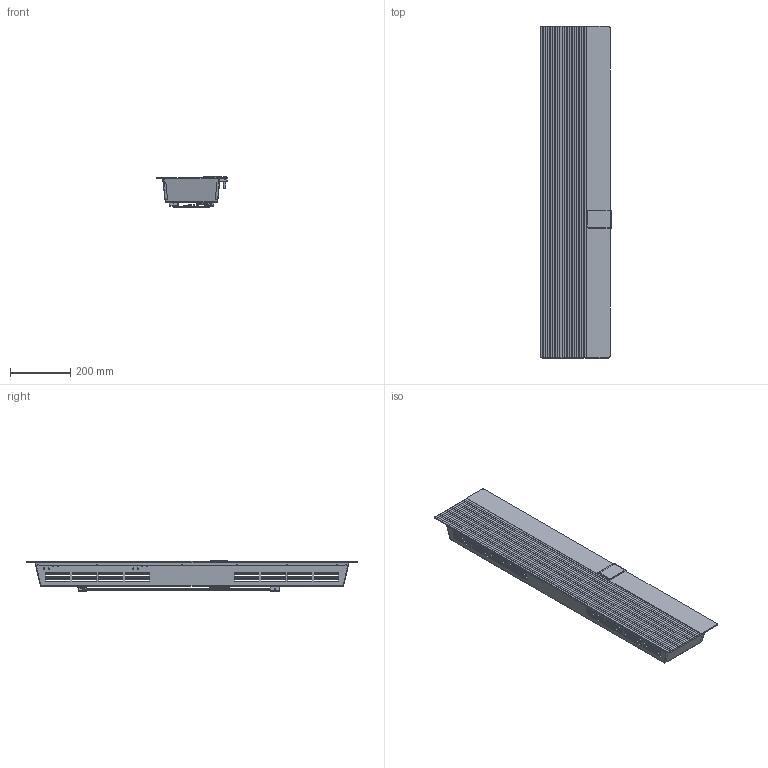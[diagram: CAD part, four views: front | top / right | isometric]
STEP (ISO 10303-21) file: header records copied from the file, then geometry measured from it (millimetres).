
FILE_DESCRIPTION(('FreeCAD Model'),'2;1');
FILE_NAME('Open CASCADE Shape Model','2026-06-16T14:32:04',(''),(''), 'Open CASCADE STEP processor 7.8','FreeCAD','Unknown');
FILE_SCHEMA(('AUTOMOTIVE_DESIGN { 1 0 10303 214 1 1 1 1 }'));
Length unit declared in the file: millimetre
Products named in the file (13): Mikado_5; MIK_GR-POSTERIORE-500_ASM; MIK_POSTERIORE-500; DEK_AGGANCIO-SUPPORTO; DEK_AGGANCIO-SUPPORTO001; ONS_GR-COMANDI_ASM; ONS_FONDO-SCATOLA-COMANDI; ONS_MASCHERINA-COMANDI; MIK_FRONTALE-500; MIK_GR-SUPPORTO-MIKADO-500_ASM; MIK_SUPPORTO-MURALE_25-MIKADO; KLI_TRAVERSA-SUPPORTO_MAX; MIK_SUPPORTO-MURALE-IN_25-MIK
Assembly tree (12 placements, depth 3):
  Mikado_5
    MIK_GR-POSTERIORE-500_ASM
      MIK_POSTERIORE-500
      DEK_AGGANCIO-SUPPORTO
      DEK_AGGANCIO-SUPPORTO001
    ONS_GR-COMANDI_ASM
      ONS_FONDO-SCATOLA-COMANDI
    ONS_MASCHERINA-COMANDI
    MIK_FRONTALE-500
    MIK_GR-SUPPORTO-MIKADO-500_ASM
      MIK_SUPPORTO-MURALE_25-MIKADO
      KLI_TRAVERSA-SUPPORTO_MAX
      MIK_SUPPORTO-MURALE-IN_25-MIK
Bounding box: 234.08 x 1100 x 100 mm (x, y, z)
Volume: 1460360.9 mm3; surface area: 1456424.9 mm2
Topology: 9 solids, 9 shells, 2041 faces, 5747 edges, 3698 vertices
Faces by surface type: plane 1214, cylinder 562, bspline 162, cone 80, sphere 12, torus 11
Entity records: 77478 total; most frequent: CARTESIAN_POINT 25388, ORIENTED_EDGE 11490, DIRECTION 9680, EDGE_CURVE 5745, LINE 3900, VECTOR 3900, VERTEX_POINT 3698, AXIS2_PLACEMENT_3D 2890
